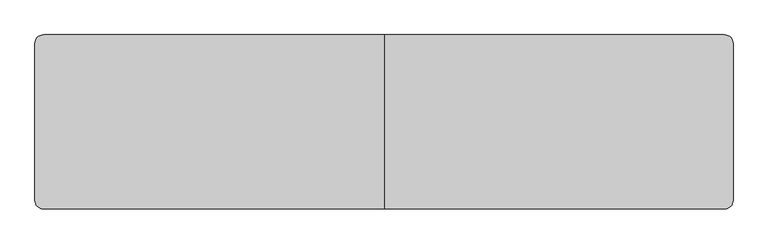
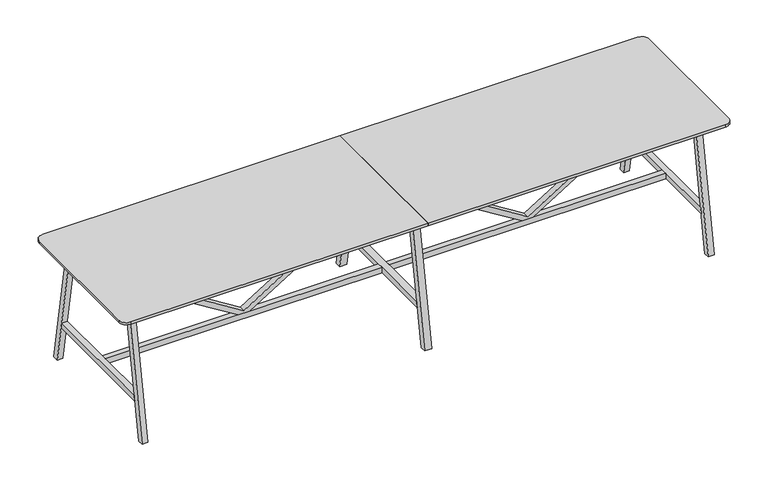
"""IFC4 building model written with IfcOpenShell, lengths in millimetres: furniture geometry, BDG_BossDesign_Tbls_AgentTables6Legs : AGE-HT-6L-4800-1200-3D."""

import ifcopenshell
import ifcopenshell.guid

model = None  # the IFC model being written
_history = None  # IfcOwnerHistory: only IFC2X3 demands one
_inside = {}  # id of a spatial element -> (the spatial element, [elements in it])
_under = {}  # id of a project, library or spatial element -> (it, [spatial elements below it])
_declared = {}  # id of a project -> (the project, [libraries it declares])
_typed = {}  # id of a type object -> (the type object, [elements of that type])
_made_of = {}  # id of a material, layer set ... -> (it, [elements and type objects made of it])


def new_model(schema):
    """Start an empty IFC model of exactly this schema.

    Asked for "IFC4X3", IfcOpenShell would pick the latest addendum, in which some entities
    have other attributes; the version numbers below select the first issue.
    IFC2X3 requires an IfcOwnerHistory on every rooted entity: one is made here for all.
    """
    global model, _history
    if schema == "IFC4X3":
        model = ifcopenshell.file(schema_version=(4, 3, 0, 0))
    else:
        model = ifcopenshell.file(schema=schema)
    _inside.clear()
    _under.clear()
    _declared.clear()
    _typed.clear()
    _made_of.clear()
    _history = None
    if model.schema == "IFC2X3":
        org = make("IfcOrganization", Name="unknown")
        user = make(
            "IfcPersonAndOrganization",
            ThePerson=make("IfcPerson", FamilyName="unknown"),
            TheOrganization=org,
        )
        app = make(
            "IfcApplication",
            ApplicationDeveloper=org,
            Version="unknown",
            ApplicationFullName="unknown",
            ApplicationIdentifier="unknown",
        )
        _history = make(
            "IfcOwnerHistory",
            OwningUser=user,
            OwningApplication=app,
            ChangeAction="ADDED",
            CreationDate=0,
        )
    return model


def make(cls, **values):
    """One entity of the class cls with the attributes given. An attribute that is None is left unset."""
    return model.create_entity(
        cls, **{name: value for name, value in values.items() if value is not None}
    )


def rooted(cls, **values):
    """An entity with a GlobalId (a new one), such as an element, a storey or a relation."""
    return make(cls, GlobalId=ifcopenshell.guid.new(), OwnerHistory=_history, **values)


def si_unit(unit_type, name, prefix=None):
    """IfcSIUnit, for example si_unit("LENGTHUNIT", "METRE", prefix="MILLI")."""
    return make("IfcSIUnit", UnitType=unit_type, Prefix=prefix, Name=name)


def assignment(units):
    """IfcUnitAssignment: the units of a project."""
    return None if units is None else make("IfcUnitAssignment", Units=units)


def point(xyz):
    """IfcCartesianPoint."""
    return None if xyz is None else make("IfcCartesianPoint", Coordinates=xyz)


def direction(xyz):
    """IfcDirection."""
    return None if xyz is None else make("IfcDirection", DirectionRatios=xyz)


def frame(location, z_axis=None, x_axis=None):
    """IfcAxis2Placement3D, a coordinate frame: its origin and axes. An axis left out is left unset."""
    return make(
        "IfcAxis2Placement3D",
        Location=point(location),
        Axis=direction(z_axis),
        RefDirection=direction(x_axis),
    )


def frame_2d(location, x_axis=None):
    """IfcAxis2Placement2D, a coordinate frame in the plane: its origin and x axis."""
    return make(
        "IfcAxis2Placement2D", Location=point(location), RefDirection=direction(x_axis)
    )


def origin():
    """The frame at (0, 0, 0) with its axes left unset."""
    return frame((0.0, 0.0, 0.0))


def place(relative_to, where):
    """IfcLocalPlacement: puts the frame where relative to a parent placement (None: the world)."""
    return make(
        "IfcLocalPlacement", PlacementRelTo=relative_to, RelativePlacement=where
    )


def context(
    kind, dimensions, precision=None, world=None, true_north=None, identifier=None
):
    """IfcGeometricRepresentationContext, for example the 3D "Model" context."""
    return make(
        "IfcGeometricRepresentationContext",
        ContextIdentifier=identifier,
        ContextType=kind,
        CoordinateSpaceDimension=dimensions,
        Precision=precision,
        WorldCoordinateSystem=world,
        TrueNorth=true_north,
    )


def project(units=None, contexts=None):
    """IfcProject with its units and contexts."""
    return rooted(
        "IfcProject",
        Name="project",
        RepresentationContexts=contexts,
        UnitsInContext=assignment(units),
    )


def spatial(cls, under=None, at=None, **own):
    """A site, building, storey or space (cls), placed at a placement, below another one or the project."""
    s = rooted(cls, ObjectPlacement=at, **own)
    if under is not None:
        _under.setdefault(under.id(), (under, []))[1].append(s)
    return s


def polyline(points):
    """IfcPolyline through the points."""
    return make("IfcPolyline", Points=[point(p) for p in points])


def circle_curve(where, radius):
    """IfcCircle in the frame where."""
    return make("IfcCircle", Position=where, Radius=radius)


def trimmed(basis, trim1, trim2, sense, master):
    """IfcTrimmedCurve: the piece of a basis curve between two trims."""
    return make(
        "IfcTrimmedCurve",
        BasisCurve=basis,
        Trim1=trim1,
        Trim2=trim2,
        SenseAgreement=sense,
        MasterRepresentation=master,
    )


def segment(curve, same_sense, transition):
    """IfcCompositeCurveSegment."""
    return make(
        "IfcCompositeCurveSegment",
        Transition=transition,
        SameSense=same_sense,
        ParentCurve=curve,
    )


def composite_curve(segments, self_intersect=None):
    """IfcCompositeCurve: segments joined end to end."""
    return make("IfcCompositeCurve", Segments=segments, SelfIntersect=self_intersect)


def outline(outer, holes=None, kind="AREA"):
    """IfcArbitraryClosedProfileDef: a profile drawn as a closed curve; with holes, ...WithVoids."""
    if holes is None:
        return make("IfcArbitraryClosedProfileDef", ProfileType=kind, OuterCurve=outer)
    return make(
        "IfcArbitraryProfileDefWithVoids",
        ProfileType=kind,
        OuterCurve=outer,
        InnerCurves=holes,
    )


def extrude(swept, where, along, depth):
    """IfcExtrudedAreaSolid: the profile swept, set in the frame where, extruded along a direction by depth."""
    return make(
        "IfcExtrudedAreaSolid",
        SweptArea=swept,
        Position=where,
        ExtrudedDirection=direction(along),
        Depth=depth,
    )


def shape(context_of_items, identifier, shape_type, items):
    """IfcShapeRepresentation: the items that make up one representation, for example the "Body"."""
    return make(
        "IfcShapeRepresentation",
        ContextOfItems=context_of_items,
        RepresentationIdentifier=identifier,
        RepresentationType=shape_type,
        Items=items,
    )


def source(mapping_origin, context_of_items, identifier, shape_type, items):
    """IfcRepresentationMap: a shape defined once, which mapped items show again and again."""
    return make(
        "IfcRepresentationMap",
        MappingOrigin=mapping_origin,
        MappedRepresentation=shape(context_of_items, identifier, shape_type, items),
    )


def transform(
    local_origin,
    x_axis=None,
    y_axis=None,
    z_axis=None,
    scale=None,
    scale2=None,
    scale3=None,
    uniform=True,
):
    """IfcCartesianTransformationOperator3D, or its non-uniform kind. x_axis, y_axis, z_axis: its Axis1, 2, 3."""
    if uniform:
        return make(
            "IfcCartesianTransformationOperator3D",
            Axis1=direction(x_axis),
            Axis2=direction(y_axis),
            LocalOrigin=point(local_origin),
            Scale=scale,
            Axis3=direction(z_axis),
        )
    return make(
        "IfcCartesianTransformationOperator3DnonUniform",
        Axis1=direction(x_axis),
        Axis2=direction(y_axis),
        LocalOrigin=point(local_origin),
        Scale=scale,
        Axis3=direction(z_axis),
        Scale2=scale2,
        Scale3=scale3,
    )


def mapped(mapping_source, mapping_target):
    """IfcMappedItem: shows the shape of a source again, moved by a transform."""
    return make(
        "IfcMappedItem", MappingSource=mapping_source, MappingTarget=mapping_target
    )


def made_of(thing, what):
    """Note that an element or type object is made of a material, layer set ...; save() writes the relation."""
    if what is not None:
        _made_of.setdefault(what.id(), (what, []))[1].append(thing)
    return thing


def element(
    cls,
    number,
    at=None,
    inside=None,
    cuts=None,
    type_object=None,
    material=None,
    context=None,
    identifier="Body",
    shape_type=None,
    held_by="IfcProductDefinitionShape",
    body=None,
    shapes=None,
    **own,
):
    """One element of the class cls, such as IfcWall. Its Tag is "e" and its number.

    at: its placement. inside: the storey or other place that contains it. cuts: it is an
    opening in that element (IfcRelVoidsElement). A single representation is given by context,
    identifier, shape_type and body (its items); several are given by shapes. held_by: the class
    of the entity that holds the representations. save() writes the other relations.
    """
    e = rooted(cls, Tag="e%d" % number, ObjectPlacement=at, **own)
    if body is not None:
        shapes = [shape(context, identifier, shape_type, body)]
    if shapes is not None:
        e.Representation = make(held_by, Representations=shapes)
    if inside is not None:
        _inside.setdefault(inside.id(), (inside, []))[1].append(e)
    if cuts is not None:
        rooted(
            "IfcRelVoidsElement", RelatingBuildingElement=cuts, RelatedOpeningElement=e
        )
    if type_object is not None:
        _typed.setdefault(type_object.id(), (type_object, []))[1].append(e)
    return made_of(e, material)


def aggregate(whole, parts):
    """IfcRelAggregates: a whole, such as a stair, and the parts it consists of."""
    return rooted("IfcRelAggregates", RelatingObject=whole, RelatedObjects=parts)


def save(model, path):
    """Write the relations noted so far, then the file.

    IfcRelAggregates (storeys below a building ...), IfcRelContainedInSpatialStructure (elements
    in a storey), IfcRelDefinesByType, IfcRelAssociatesMaterial and IfcRelDeclares: one each for
    every whole, place, type object, material and project.
    """
    for whole, parts in _under.values():
        aggregate(whole, parts)
    for where, things in _inside.values():
        rooted(
            "IfcRelContainedInSpatialStructure",
            RelatedElements=things,
            RelatingStructure=where,
        )
    for kind, things in _typed.values():
        rooted("IfcRelDefinesByType", RelatedObjects=things, RelatingType=kind)
    for what, things in _made_of.values():
        rooted("IfcRelAssociatesMaterial", RelatedObjects=things, RelatingMaterial=what)
    for by, libraries in _declared.values():
        rooted("IfcRelDeclares", RelatingContext=by, RelatedDefinitions=libraries)
    model.write(path)


def furniture_09a09e86(model_context):
    return source(origin(), model_context, "Body", "SweptSolid", [
        extrude(outline(polyline([(345.0, 1074.0823957), (345.0, 1158.4176043), (992.0, 2205.0), (1032.0, 2205.0), (1032.0, 2185.0), (365.0, 1116.25), (1032.0, 47.5), (1032.0, 27.5), (992.0, 27.5), (345.0, 1074.0823957)])), frame((0.0, -22.5000305, 0.0), z_axis=(0.0, 1.0, 0.0), x_axis=(0.0, 0.0, 1.0)), (0.0, 0.0, 1.0), 45.000061),
        extrude(outline(polyline([(345.0, -1074.0823957), (992.0, -27.5), (1032.0, -27.5), (1032.0, -47.5), (365.0, -1116.25), (1032.0, -2185.0), (1032.0, -2205.0), (992.0, -2205.0), (345.0, -1158.4176043), (345.0, -1074.0823957)])), frame((0.0, -22.5000305, 0.0), z_axis=(0.0, 1.0, 0.0), x_axis=(0.0, 0.0, 1.0)), (0.0, 0.0, 1.0), 45.000061),
        extrude(outline(polyline([(600.0, 0.0), (554.9999949, 0.0), (385.5, 970.0), (430.5000051, 970.0), (600.0, 0.0)])), frame((-27.5, 0.0, 0.0), z_axis=(1.0, 0.0, 0.0), x_axis=(0.0, 1.0, 0.0)), (0.0, 0.0, 1.0), 55.0),
        extrude(outline(polyline([(-600.0, 0.0), (-430.5000051, 970.0), (-385.5, 970.0), (-554.9999949, 0.0), (-600.0, 0.0)])), frame((-27.5, 0.0, 0.0), z_axis=(1.0, 0.0, 0.0), x_axis=(0.0, 1.0, 0.0)), (0.0, 0.0, 1.0), 55.0),
        extrude(outline(polyline([(502.5773161, 300.0), (-502.5773161, 300.0), (-494.7139143, 345.0), (494.7139143, 345.0), (502.5773161, 300.0)])), frame((-27.5, 0.0, 0.0), z_axis=(1.0, 0.0, 0.0), x_axis=(0.0, 1.0, 0.0)), (0.0, 0.0, 1.0), 55.0),
        extrude(outline(composite_curve([segment(polyline([(0.0, 600.0), (0.0, -600.0), (-2340.0, -600.0)]), True, "CONTINUOUS"), segment(trimmed(circle_curve(frame_2d((-2340.0, -540.0)), 60.0), [point((-2340.0, -600.0))], [point((-2400.0, -540.0))], False, "CARTESIAN"), True, "CONTINUOUS"), segment(polyline([(-2400.0, -540.0), (-2400.0, 540.0)]), True, "CONTINUOUS"), segment(trimmed(circle_curve(frame_2d((-2340.0, 540.0)), 60.0), [point((-2400.0, 540.0))], [point((-2340.0, 600.0))], False, "CARTESIAN"), True, "CONTINUOUS"), segment(polyline([(-2340.0, 600.0), (0.0, 600.0)]), True, "CONTINUOUS")], self_intersect=False)), frame((0.0, 0.0, 1032.0), z_axis=(0.0, 0.0, 1.0), x_axis=(1.0, 0.0, 0.0)), (0.0, 0.0, 1.0), 18.0),
        extrude(outline(polyline([(-494.7139143, 345.0), (494.7139143, 345.0), (502.5773161, 300.0), (-502.5773161, 300.0), (-494.7139143, 345.0)])), frame((2205.0, 0.0, 0.0), z_axis=(1.0, 0.0, 0.0), x_axis=(0.0, 1.0, 0.0)), (0.0, 0.0, 1.0), 45.0),
        extrude(outline(polyline([(600.0, 0.0), (554.9999949, 0.0), (385.5, 970.0), (430.5000051, 970.0), (600.0, 0.0)])), frame((-2250.0, 0.0, 0.0), z_axis=(1.0, 0.0, 0.0), x_axis=(0.0, 1.0, 0.0)), (0.0, 0.0, 1.0), 45.0),
        extrude(outline(polyline([(-600.0, 0.0), (-430.5000051, 970.0), (-385.5, 970.0), (-554.9999949, 0.0), (-600.0, 0.0)])), frame((-2250.0, 0.0, 0.0), z_axis=(1.0, 0.0, 0.0), x_axis=(0.0, 1.0, 0.0)), (0.0, 0.0, 1.0), 45.0),
        extrude(outline(polyline([(-494.7139143, 345.0), (494.7139143, 345.0), (502.5773161, 300.0), (-502.5773161, 300.0), (-494.7139143, 345.0)])), frame((-2250.0, 0.0, 0.0), z_axis=(1.0, 0.0, 0.0), x_axis=(0.0, 1.0, 0.0)), (0.0, 0.0, 1.0), 45.0),
        extrude(outline(polyline([(-426.6006165, 944.973938), (-404.2770691, 1032.0), (-379.5, 1032.0), (-401.8235474, 944.973938), (-426.6006165, 944.973938)])), frame((-2205.0, 0.0, 0.0), z_axis=(1.0, 0.0, 0.0), x_axis=(0.0, 1.0, 0.0)), (0.0, 0.0, 1.0), 4410.0),
        extrude(outline(polyline([(426.6006165, 944.973938), (401.8235474, 944.973938), (379.5, 1032.0), (404.2770691, 1032.0), (426.6006165, 944.973938)])), frame((-2205.0, 0.0, 0.0), z_axis=(1.0, 0.0, 0.0), x_axis=(0.0, 1.0, 0.0)), (0.0, 0.0, 1.0), 4410.0),
        extrude(outline(polyline([(599.7999878, 0.0), (554.7999827, 0.0), (385.5, 970.0), (430.5000051, 970.0), (599.7999878, 0.0)])), frame((2205.0, 0.0, 0.0), z_axis=(1.0, 0.0, 0.0), x_axis=(0.0, 1.0, 0.0)), (0.0, 0.0, 1.0), 45.0),
        extrude(outline(polyline([(-599.7999878, 0.0), (-430.5000051, 970.0), (-385.5, 970.0), (-554.7999827, 0.0), (-599.7999878, 0.0)])), frame((2205.0, 0.0, 0.0), z_axis=(1.0, 0.0, 0.0), x_axis=(0.0, 1.0, 0.0)), (0.0, 0.0, 1.0), 45.0),
        extrude(outline(polyline([(-27.5, 22.5000305), (-27.5, -22.5000305), (-2205.0, -22.5000305), (-2205.0, 22.5000305), (-27.5, 22.5000305)])), frame((0.0, 0.0, 300.0), z_axis=(0.0, 0.0, 1.0), x_axis=(1.0, 0.0, 0.0)), (0.0, 0.0, 1.0), 45.0),
        extrude(outline(polyline([(27.5, -22.5000305), (27.5, 22.5000305), (2205.0, 22.5000305), (2205.0, -22.5000305), (27.5, -22.5000305)])), frame((0.0, 0.0, 300.0), z_axis=(0.0, 0.0, 1.0), x_axis=(1.0, 0.0, 0.0)), (0.0, 0.0, 1.0), 45.0),
        extrude(outline(composite_curve([segment(trimmed(circle_curve(frame_2d((2340.0, 540.0)), 60.0), [point((2340.0, 600.0))], [point((2400.0, 540.0))], False, "CARTESIAN"), True, "CONTINUOUS"), segment(polyline([(2400.0, 540.0), (2400.0, -540.0)]), True, "CONTINUOUS"), segment(trimmed(circle_curve(frame_2d((2340.0, -540.0)), 60.0), [point((2400.0, -540.0))], [point((2340.0, -600.0))], False, "CARTESIAN"), True, "CONTINUOUS"), segment(polyline([(2340.0, -600.0), (0.0, -600.0), (0.0, 600.0), (2340.0, 600.0)]), True, "CONTINUOUS")], self_intersect=False)), frame((0.0, 0.0, 1032.0), z_axis=(0.0, 0.0, 1.0), x_axis=(1.0, 0.0, 0.0)), (0.0, 0.0, 1.0), 18.0),
    ])


if __name__ == "__main__":
    model = new_model("IFC4")
    model_context = context("Model", 3, world=origin())
    ifc_project = project(units=[si_unit("LENGTHUNIT", "METRE", prefix="MILLI")], contexts=[model_context])
    site = spatial("IfcSite", under=ifc_project)
    building = spatial("IfcBuilding", under=site)
    placement = place(None, origin())
    furniture_shape = furniture_09a09e86(model_context)
    element("IfcFurniture", 1, ObjectType="BDG_BossDesign_Tbls_AgentTables6Legs : AGE-HT-6L-4800-1200-3D", at=placement, inside=building, context=model_context, shape_type="MappedRepresentation", body=[
        mapped(furniture_shape, transform((0.0, 0.0, 0.0), x_axis=(1.0, 0.0, 0.0), y_axis=(0.0, 1.0, 0.0), z_axis=(0.0, 0.0, 1.0))),
    ])
    save(model, "model.ifc")
